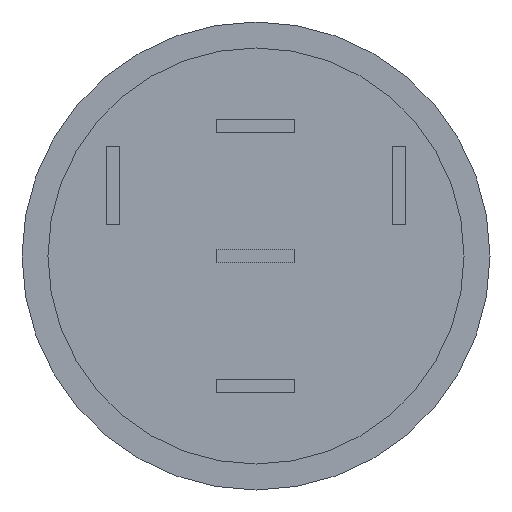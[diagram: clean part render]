
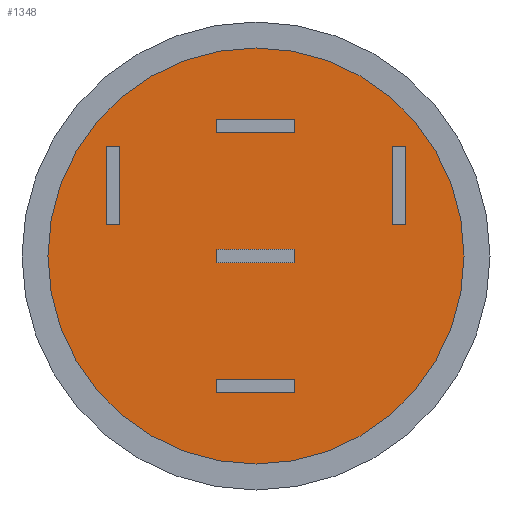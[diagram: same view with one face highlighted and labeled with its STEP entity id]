
A CAD part, front view. The second image highlights one B-rep face of the part: STEP entity #1348.
In plain terms, the highlighted planar face has unit normal (0, -1, 0).
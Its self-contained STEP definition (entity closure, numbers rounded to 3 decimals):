
#188 = FACE_OUTER_BOUND ( 'NONE', #255, .T. ) ;
#255 = EDGE_LOOP ( 'NONE', ( #410 ) ) ;
#410 = ORIENTED_EDGE ( 'NONE', *, *, #1119, .F. ) ;
#665 = CARTESIAN_POINT ( 'NONE',  ( 0., -8.5, 0. ) ) ;
#674 = DIRECTION ( 'NONE',  ( 0., 1., 0. ) ) ;
#717 = CARTESIAN_POINT ( 'NONE',  ( 0., -8.5, 0. ) ) ;
#755 = PLANE ( 'NONE',  #765 ) ;
#765 = AXIS2_PLACEMENT_3D ( 'NONE', #665, #1521, #1648 ) ;
#902 = CARTESIAN_POINT ( 'NONE',  ( 0., -8.5, 8. ) ) ;
#1119 = EDGE_CURVE ( 'NONE', #1189, #1189, #1391, .T. ) ;
#1144 = DIRECTION ( 'NONE',  ( 0., 0., 1. ) ) ;
#1189 = VERTEX_POINT ( 'NONE', #902 ) ;
#1348 = ADVANCED_FACE ( 'NONE', ( #188 ), #755, .F. ) ;
#1391 = CIRCLE ( 'NONE', #1843, 8. ) ;
#1521 = DIRECTION ( 'NONE',  ( 0., 1., 0. ) ) ;
#1648 = DIRECTION ( 'NONE',  ( 0., 0., 1. ) ) ;
#1843 = AXIS2_PLACEMENT_3D ( 'NONE', #717, #674, #1144 ) ;
